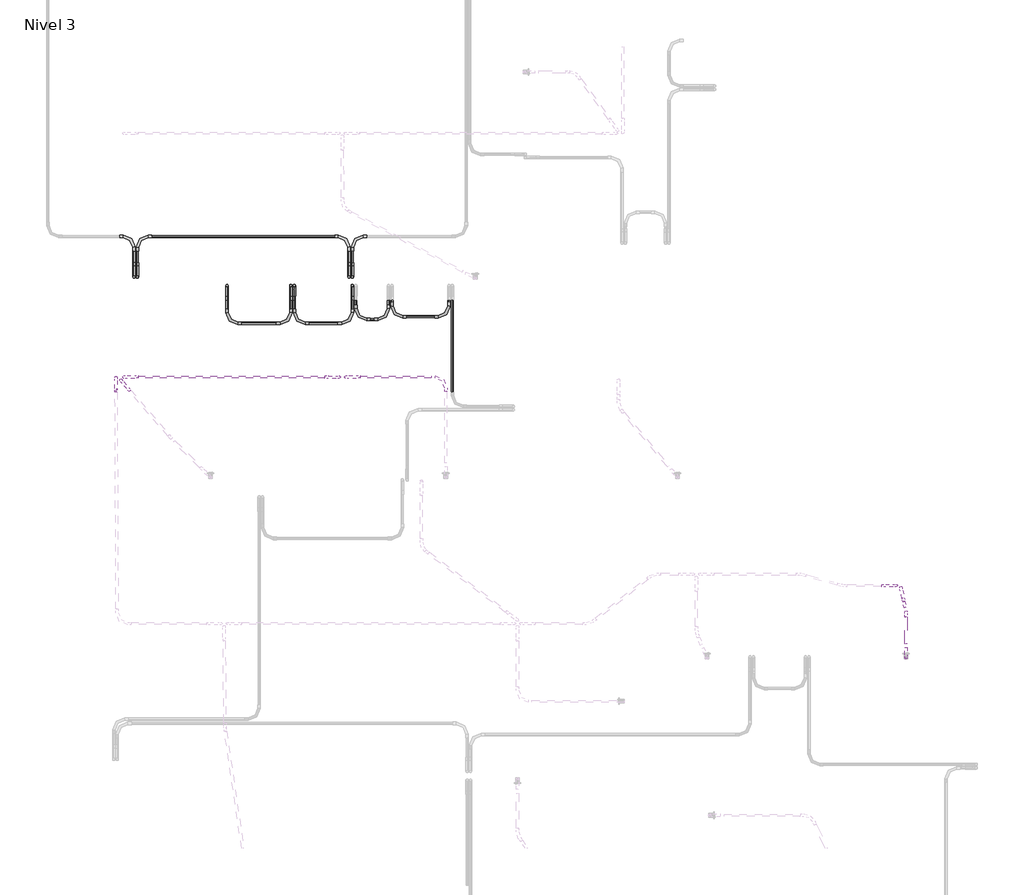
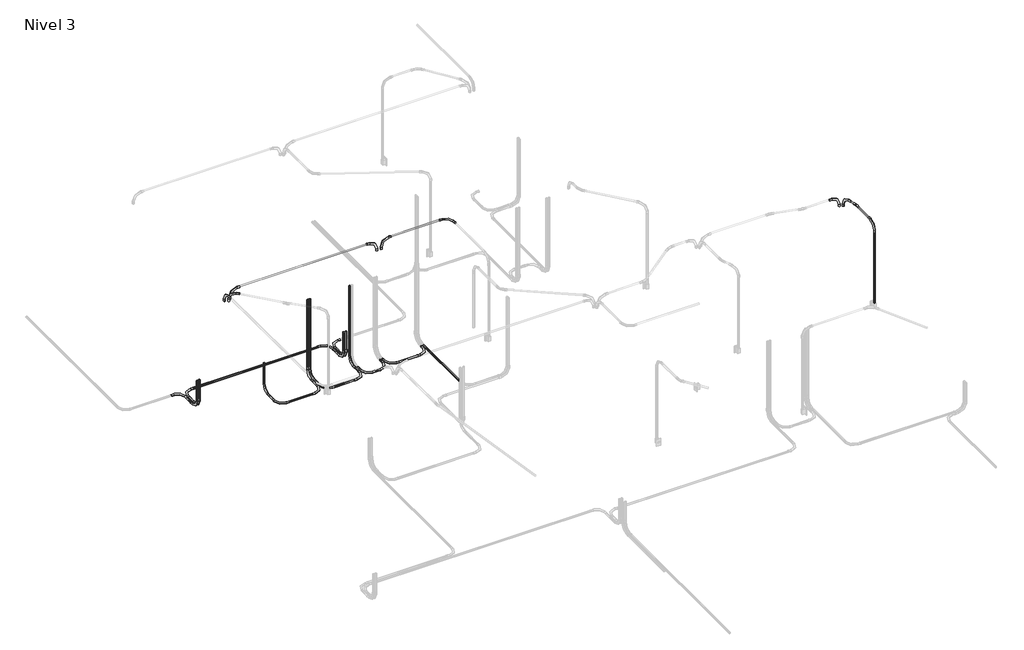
# One storey, part 5 of 9: 31 cable carrier segments, 30 cable carrier fittings.
"""IFC4 building model written with IfcOpenShell, lengths in millimetres."""

from ifc_helpers import new_model, si_unit, point, frame, frame_2d, origin, place, context, project, spatial, circle_curve, trimmed, segment, composite_curve, outline, extrude, transform, mapped, element, save
from components import m_codo_de_tubo_extremo_liso_pvc_9da73e12, m_codo_de_tubo_extremo_liso_pvc_102f0f41, m_codo_de_tubo_extremo_liso_pvc_2c15a8ce

model = new_model("IFC4")

# Units and contexts
model_context = context("Model", 3, world=origin())
ifc_project = project(units=[si_unit("LENGTHUNIT", "METRE", prefix="MILLI")], contexts=[model_context])

# Site, building, storey
site = spatial("IfcSite", under=ifc_project)
building = spatial("IfcBuilding", under=site)
storey = spatial("IfcBuildingStorey", under=building, Name="Nivel 3", Elevation=5450.0)

# Cable carrier fittings
placement = place(None, origin())
m_codo_de_tubo_extremo_liso_pvc_shape = m_codo_de_tubo_extremo_liso_pvc_9da73e12(model_context)
element("IfcCableCarrierFitting", 1, ObjectType="M_Codo de tubo - Extremo liso - PVC : CODO POTENCIA", at=placement, inside=storey, context=model_context, shape_type="MappedRepresentation", body=[
    mapped(m_codo_de_tubo_extremo_liso_pvc_shape, transform((194.4474418, 9095.3628882, 5380.0), x_axis=(0.0, 0.0, -1.0), y_axis=(0.0, 1.0, 0.0), z_axis=(1.0, 0.0, 0.0))),
])
element("IfcCableCarrierFitting", 2, ObjectType="M_Codo de tubo - Extremo liso - PVC : CODO POTENCIA", at=placement, inside=storey, context=model_context, shape_type="MappedRepresentation", body=[
    mapped(m_codo_de_tubo_extremo_liso_pvc_shape, transform((2471.9287441, 9095.3628882, 5380.0), x_axis=(0.0, 0.0, -1.0), y_axis=(0.0, 1.0, 0.0), z_axis=(1.0, 0.0, 0.0))),
])
element("IfcCableCarrierFitting", 3, ObjectType="M_Codo de tubo - Extremo liso - PVC : CODO POTENCIA", at=placement, inside=storey, context=model_context, shape_type="MappedRepresentation", body=[
    mapped(m_codo_de_tubo_extremo_liso_pvc_shape, transform((2507.9923837, 9523.463856, 5380.0), x_axis=(-1.0, 0.0, 0.0), y_axis=(0.0, -1.0, 0.0), z_axis=(0.0, 0.0, 1.0))),
])
element("IfcCableCarrierFitting", 4, ObjectType="M_Codo de tubo - Extremo liso - PVC : CODO POTENCIA", at=placement, inside=storey, context=model_context, shape_type="MappedRepresentation", body=[
    mapped(m_codo_de_tubo_extremo_liso_pvc_shape, transform((2507.9923837, 9095.3628882, 5380.0), x_axis=(0.0, 0.0, -1.0), y_axis=(0.0, 1.0, 0.0), z_axis=(1.0, 0.0, 0.0))),
])
element("IfcCableCarrierFitting", 5, ObjectType="M_Codo de tubo - Extremo liso - PVC : CODO POTENCIA", at=placement, inside=storey, context=model_context, shape_type="MappedRepresentation", body=[
    mapped(m_codo_de_tubo_extremo_liso_pvc_shape, transform((2471.9287441, 9523.463856, 5380.0), x_axis=(0.0, 1.0, 0.0), y_axis=(-1.0, 0.0, 0.0), z_axis=(0.0, 0.0, 1.0))),
])
element("IfcCableCarrierFitting", 6, ObjectType="M_Codo de tubo - Extremo liso - PVC : CODO POTENCIA", at=placement, inside=storey, context=model_context, shape_type="MappedRepresentation", body=[
    mapped(m_codo_de_tubo_extremo_liso_pvc_shape, transform((230.5110814, 9523.463856, 5380.0), x_axis=(-1.0, 0.0, 0.0), y_axis=(0.0, -1.0, 0.0), z_axis=(0.0, 0.0, 1.0))),
])
element("IfcCableCarrierFitting", 7, ObjectType="M_Codo de tubo - Extremo liso - PVC : CODO POTENCIA", at=placement, inside=storey, context=model_context, shape_type="MappedRepresentation", body=[
    mapped(m_codo_de_tubo_extremo_liso_pvc_shape, transform((230.5110814, 9095.3628882, 5380.0), x_axis=(0.0, 0.0, -1.0), y_axis=(0.0, 1.0, 0.0), z_axis=(1.0, 0.0, 0.0))),
])
element("IfcCableCarrierFitting", 8, ObjectType="M_Codo de tubo - Extremo liso - PVC : CODO POTENCIA", at=placement, inside=storey, context=model_context, shape_type="MappedRepresentation", body=[
    mapped(m_codo_de_tubo_extremo_liso_pvc_shape, transform((194.4474418, 9523.463856, 5380.0), x_axis=(0.0, 1.0, 0.0), y_axis=(-1.0, 0.0, 0.0), z_axis=(0.0, 0.0, 1.0))),
])
element("IfcCableCarrierFitting", 9, ObjectType="M_Codo de tubo - Extremo liso - PVC : CODO POTENCIA", at=placement, inside=storey, context=model_context, shape_type="MappedRepresentation", body=[
    mapped(m_codo_de_tubo_extremo_liso_pvc_shape, transform((1181.3168754, 9004.6371118, 5380.0), x_axis=(0.0, 0.0, -1.0), y_axis=(0.0, -1.0, 0.0), z_axis=(-1.0, 0.0, 0.0))),
])
element("IfcCableCarrierFitting", 10, ObjectType="M_Codo de tubo - Extremo liso - PVC : CODO POTENCIA", at=placement, inside=storey, context=model_context, shape_type="MappedRepresentation", body=[
    mapped(m_codo_de_tubo_extremo_liso_pvc_shape, transform((1856.6567743, 9004.6371118, 5380.0), x_axis=(0.0, 0.0, -1.0), y_axis=(0.0, -1.0, 0.0), z_axis=(-1.0, 0.0, 0.0))),
])
element("IfcCableCarrierFitting", 11, ObjectType="M_Codo de tubo - Extremo liso - PVC : CODO POTENCIA", at=placement, inside=storey, context=model_context, shape_type="MappedRepresentation", body=[
    mapped(m_codo_de_tubo_extremo_liso_pvc_shape, transform((1892.720414, 9004.6371118, 5380.0), x_axis=(0.0, 0.0, -1.0), y_axis=(0.0, -1.0, 0.0), z_axis=(-1.0, 0.0, 0.0))),
])
element("IfcCableCarrierFitting", 12, ObjectType="M_Codo de tubo - Extremo liso - PVC : CODO POTENCIA", at=placement, inside=storey, context=model_context, shape_type="MappedRepresentation", body=[
    mapped(m_codo_de_tubo_extremo_liso_pvc_shape, transform((2507.6648665, 9004.6371118, 5380.0), x_axis=(0.0, 0.0, -1.0), y_axis=(0.0, -1.0, 0.0), z_axis=(-1.0, 0.0, 0.0))),
])
element("IfcCableCarrierFitting", 13, ObjectType="M_Codo de tubo - Extremo liso - PVC : CODO POTENCIA", at=placement, inside=storey, context=model_context, shape_type="MappedRepresentation", body=[
    mapped(m_codo_de_tubo_extremo_liso_pvc_shape, transform((1856.6567743, 8604.6371118, 5380.0), x_axis=(1.0, 0.0, 0.0), y_axis=(0.0, 1.0, 0.0), z_axis=(0.0, 0.0, 1.0))),
])
element("IfcCableCarrierFitting", 14, ObjectType="M_Codo de tubo - Extremo liso - PVC : CODO POTENCIA", at=placement, inside=storey, context=model_context, shape_type="MappedRepresentation", body=[
    mapped(m_codo_de_tubo_extremo_liso_pvc_shape, transform((1181.3168754, 8604.6371118, 5380.0), x_axis=(0.0, -1.0, 0.0), y_axis=(1.0, 0.0, 0.0), z_axis=(0.0, 0.0, 1.0))),
])
element("IfcCableCarrierFitting", 15, ObjectType="M_Codo de tubo - Extremo liso - PVC : CODO POTENCIA", at=placement, inside=storey, context=model_context, shape_type="MappedRepresentation", body=[
    mapped(m_codo_de_tubo_extremo_liso_pvc_shape, transform((2890.8449158, 8644.6371118, 5380.0), x_axis=(1.0, 0.0, 0.0), y_axis=(0.0, 1.0, 0.0), z_axis=(0.0, 0.0, 1.0))),
])
element("IfcCableCarrierFitting", 16, ObjectType="M_Codo de tubo - Extremo liso - PVC : CODO POTENCIA", at=placement, inside=storey, context=model_context, shape_type="MappedRepresentation", body=[
    mapped(m_codo_de_tubo_extremo_liso_pvc_shape, transform((2543.7285061, 8644.6371118, 5380.0), x_axis=(0.0, -1.0, 0.0), y_axis=(1.0, 0.0, 0.0), z_axis=(0.0, 0.0, 1.0))),
])
element("IfcCableCarrierFitting", 17, ObjectType="M_Codo de tubo - Extremo liso - PVC : CODO POTENCIA", at=placement, inside=storey, context=model_context, shape_type="MappedRepresentation", body=[
    mapped(m_codo_de_tubo_extremo_liso_pvc_shape, transform((2507.6648665, 8604.6371118, 5380.0), x_axis=(1.0, 0.0, 0.0), y_axis=(0.0, 1.0, 0.0), z_axis=(0.0, 0.0, 1.0))),
])
element("IfcCableCarrierFitting", 18, ObjectType="M_Codo de tubo - Extremo liso - PVC : CODO POTENCIA", at=placement, inside=storey, context=model_context, shape_type="MappedRepresentation", body=[
    mapped(m_codo_de_tubo_extremo_liso_pvc_shape, transform((1892.720414, 8604.6371118, 5380.0), x_axis=(0.0, -1.0, 0.0), y_axis=(1.0, 0.0, 0.0), z_axis=(0.0, 0.0, 1.0))),
])
element("IfcCableCarrierFitting", 19, ObjectType="M_Codo de tubo - Extremo liso - PVC : CODO POTENCIA", at=placement, inside=storey, context=model_context, shape_type="MappedRepresentation", body=[
    mapped(m_codo_de_tubo_extremo_liso_pvc_shape, transform((2926.9085554, 8674.6371118, 5380.0), x_axis=(0.0, -1.0, 0.0), y_axis=(1.0, 0.0, 0.0), z_axis=(0.0, 0.0, 1.0))),
])
element("IfcCableCarrierFitting", 20, ObjectType="M_Codo de tubo - Extremo liso - PVC : CODO POTENCIA", at=placement, inside=storey, context=model_context, shape_type="MappedRepresentation", body=[
    mapped(m_codo_de_tubo_extremo_liso_pvc_shape, transform((3530.4120251, 8674.6371118, 5380.0), x_axis=(1.0, 0.0, 0.0), y_axis=(0.0, 1.0, 0.0), z_axis=(0.0, 0.0, 1.0))),
])
element("IfcCableCarrierFitting", 21, ObjectType="M_Codo de tubo - Extremo liso - PVC : CODO ILUMINACION", at=placement, inside=storey, context=model_context, shape_type="MappedRepresentation", body=[
    mapped(m_codo_de_tubo_extremo_liso_pvc_shape, transform((88.3958853, 8034.5901689, 8000.0), x_axis=(-1.0, 0.0, 0.0), y_axis=(0.0, 0.0, -1.0), z_axis=(0.0, -1.0, 0.0))),
])
element("IfcCableCarrierFitting", 22, ObjectType="M_Codo de tubo - Extremo liso - PVC : CODO ILUMINACION", at=placement, inside=storey, context=model_context, shape_type="MappedRepresentation", body=[
    mapped(m_codo_de_tubo_extremo_liso_pvc_shape, transform((2437.1421514, 8034.5901689, 8000.0), x_axis=(-1.0, 0.0, 0.0), y_axis=(0.0, 0.0, -1.0), z_axis=(0.0, -1.0, 0.0))),
])
element("IfcCableCarrierFitting", 23, ObjectType="M_Codo de tubo - Extremo liso - PVC : CODO ILUMINACION", at=placement, inside=storey, context=model_context, shape_type="MappedRepresentation", body=[
    mapped(m_codo_de_tubo_extremo_liso_pvc_shape, transform((3497.5007971, 8034.5901689, 8000.0), x_axis=(0.0, 1.0, 0.0), y_axis=(-1.0, 0.0, 0.0), z_axis=(0.0, 0.0, 1.0))),
])
element("IfcCableCarrierFitting", 24, ObjectType="M_Codo de tubo - Extremo liso - PVC : CODO ILUMINACION", at=placement, inside=storey, context=model_context, shape_type="MappedRepresentation", body=[
    mapped(m_codo_de_tubo_extremo_liso_pvc_shape, transform((8316.6972499, 5804.4592835, 8000.0), x_axis=(-0.2079116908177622, 0.978147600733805, 0.0), y_axis=(0.0, 0.0, -1.0), z_axis=(-0.978147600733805, -0.2079116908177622, 0.0))),
])
element("IfcCableCarrierFitting", 25, ObjectType="M_Codo de tubo - Extremo liso - PVC : CODO ILUMINACION", at=placement, inside=storey, context=model_context, shape_type="MappedRepresentation", body=[
    mapped(m_codo_de_tubo_extremo_liso_pvc_shape, transform((8372.2907497, 5056.8611243, 8000.0), x_axis=(0.0, 0.0, 1.0), y_axis=(0.0, 1.0, 0.0), z_axis=(-1.0, 0.0, 0.0))),
])
m_codo_de_tubo_extremo_liso_pvc_2_shape = m_codo_de_tubo_extremo_liso_pvc_102f0f41(model_context)
element("IfcCableCarrierFitting", 26, ObjectType="M_Codo de tubo - Extremo liso - PVC : CODO ILUMINACION", at=placement, inside=storey, context=model_context, shape_type="MappedRepresentation", body=[
    mapped(m_codo_de_tubo_extremo_liso_pvc_2_shape, transform((2369.1118904, 8034.5901689, 8000.0), x_axis=(1.0, 0.0, 0.0), y_axis=(0.0, 0.0, 1.0), z_axis=(0.0, -1.0, 0.0))),
])
element("IfcCableCarrierFitting", 27, ObjectType="M_Codo de tubo - Extremo liso - PVC : CODO ILUMINACION", at=placement, inside=storey, context=model_context, shape_type="MappedRepresentation", body=[
    mapped(m_codo_de_tubo_extremo_liso_pvc_2_shape, transform((8269.3235905, 5825.8353075, 8000.0), x_axis=(1.0, 0.0, 0.0), y_axis=(0.0, 0.0, 1.0), z_axis=(0.0, -1.0, 0.0))),
])
element("IfcCableCarrierFitting", 28, ObjectType="M_Codo de tubo - Extremo liso - PVC : CODO ILUMINACION", at=placement, inside=storey, context=model_context, shape_type="MappedRepresentation", body=[
    mapped(m_codo_de_tubo_extremo_liso_pvc_2_shape, transform((54.7290552, 8003.7690108, 8000.0), x_axis=(-0.6458247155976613, 0.7634857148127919, 0.0), y_axis=(0.0, 0.0, 1.0), z_axis=(0.7634857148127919, 0.6458247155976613, 0.0))),
])
element("IfcCableCarrierFitting", 29, ObjectType="M_Codo de tubo - Extremo liso - PVC : CODO ILUMINACION", at=placement, inside=storey, context=model_context, shape_type="MappedRepresentation", body=[
    mapped(m_codo_de_tubo_extremo_liso_pvc_2_shape, transform((4.5289809, 8029.5330199, 8000.0), x_axis=(-0.004558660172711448, 0.9999896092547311, 0.0), y_axis=(0.0, 0.0, 1.0000000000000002), z_axis=(0.9999896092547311, 0.004558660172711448, 0.0))),
])
m_codo_de_tubo_extremo_liso_pvc_3_shape = m_codo_de_tubo_extremo_liso_pvc_2c15a8ce(model_context)
element("IfcCableCarrierFitting", 30, ObjectType="M_Codo de tubo - Extremo liso - PVC : CODO ILUMINACION", at=placement, inside=storey, context=model_context, shape_type="MappedRepresentation", body=[
    mapped(m_codo_de_tubo_extremo_liso_pvc_3_shape, transform((8372.2907497, 5542.9124303, 8000.0), x_axis=(0.0, 1.0, 0.0), y_axis=(-1.0, 0.0, 0.0), z_axis=(0.0, 0.0, 1.0))),
])

# Cable carrier segments
element("IfcCableCarrierSegment", 31, ObjectType="PVC-SEL, POTENCIA", at=placement, inside=storey, context=model_context, shape_type="SweptSolid", body=[
    extrude(outline(composite_curve([segment(trimmed(circle_curve(frame_2d((5380.0, 230.5110814)), 11.71), [point((5380.0, 218.8010814))], [point((5368.29, 230.5110814))], False, "CARTESIAN"), True, "CONTINUOUS"), segment(trimmed(circle_curve(frame_2d((5380.0, 230.5110814)), 11.71), [point((5368.29, 230.5110814))], [point((5380.0, 242.2210814))], False, "CARTESIAN"), True, "CONTINUOUS"), segment(trimmed(circle_curve(frame_2d((5380.0, 230.5110814)), 11.71), [point((5380.0, 242.2210814))], [point((5391.71, 230.5110814))], False, "CARTESIAN"), True, "CONTINUOUS"), segment(trimmed(circle_curve(frame_2d((5380.0, 230.5110814)), 11.71), [point((5391.71, 230.5110814))], [point((5380.0, 218.8010814))], False, "CARTESIAN"), True, "CONTINUOUS")], self_intersect=False)), frame((0.0, 9247.7628882, 0.0), z_axis=(0.0, 1.0, 0.0), x_axis=(0.0, 0.0, 1.0)), (0.0, 0.0, 1.0), 123.3009678),
])
element("IfcCableCarrierSegment", 32, ObjectType="PVC-SEL, POTENCIA", at=placement, inside=storey, context=model_context, shape_type="SweptSolid", body=[
    extrude(outline(composite_curve([segment(trimmed(circle_curve(frame_2d((230.5110814, 9095.3628882)), 11.71), [point((242.2210814, 9095.3628882))], [point((230.5110814, 9083.6528882))], False, "CARTESIAN"), True, "CONTINUOUS"), segment(trimmed(circle_curve(frame_2d((230.5110814, 9095.3628882)), 11.71), [point((230.5110814, 9083.6528882))], [point((218.8010814, 9095.3628882))], False, "CARTESIAN"), True, "CONTINUOUS"), segment(trimmed(circle_curve(frame_2d((230.5110814, 9095.3628882)), 11.71), [point((218.8010814, 9095.3628882))], [point((230.5110814, 9107.0728882))], False, "CARTESIAN"), True, "CONTINUOUS"), segment(trimmed(circle_curve(frame_2d((230.5110814, 9095.3628882)), 11.71), [point((230.5110814, 9107.0728882))], [point((242.2210814, 9095.3628882))], False, "CARTESIAN"), True, "CONTINUOUS")], self_intersect=False)), frame((0.0, 0.0, 5532.4), z_axis=(0.0, 0.0, 1.0), x_axis=(1.0, 0.0, 0.0)), (0.0, 0.0, 1.0), 297.3020537),
])
element("IfcCableCarrierSegment", 33, ObjectType="PVC-SEL, POTENCIA", at=placement, inside=storey, context=model_context, shape_type="SweptSolid", body=[
    extrude(outline(composite_curve([segment(trimmed(circle_curve(frame_2d((5380.0, 194.4474418)), 11.71), [point((5380.0, 206.1574418))], [point((5391.71, 194.4474418))], False, "CARTESIAN"), True, "CONTINUOUS"), segment(trimmed(circle_curve(frame_2d((5380.0, 194.4474418)), 11.71), [point((5391.71, 194.4474418))], [point((5380.0, 182.7374418))], False, "CARTESIAN"), True, "CONTINUOUS"), segment(trimmed(circle_curve(frame_2d((5380.0, 194.4474418)), 11.71), [point((5380.0, 182.7374418))], [point((5368.29, 194.4474418))], False, "CARTESIAN"), True, "CONTINUOUS"), segment(trimmed(circle_curve(frame_2d((5380.0, 194.4474418)), 11.71), [point((5368.29, 194.4474418))], [point((5380.0, 206.1574418))], False, "CARTESIAN"), True, "CONTINUOUS")], self_intersect=False)), frame((0.0, 9247.7628882, 0.0), z_axis=(0.0, 1.0, 0.0), x_axis=(0.0, 0.0, 1.0)), (0.0, 0.0, 1.0), 123.3009678),
])
element("IfcCableCarrierSegment", 34, ObjectType="PVC-SEL, POTENCIA", at=placement, inside=storey, context=model_context, shape_type="SweptSolid", body=[
    extrude(outline(composite_curve([segment(trimmed(circle_curve(frame_2d((194.4474418, 9095.3628882)), 11.71), [point((206.1574418, 9095.3628882))], [point((194.4474418, 9083.6528882))], False, "CARTESIAN"), True, "CONTINUOUS"), segment(trimmed(circle_curve(frame_2d((194.4474418, 9095.3628882)), 11.71), [point((194.4474418, 9083.6528882))], [point((182.7374418, 9095.3628882))], False, "CARTESIAN"), True, "CONTINUOUS"), segment(trimmed(circle_curve(frame_2d((194.4474418, 9095.3628882)), 11.71), [point((182.7374418, 9095.3628882))], [point((194.4474418, 9107.0728882))], False, "CARTESIAN"), True, "CONTINUOUS"), segment(trimmed(circle_curve(frame_2d((194.4474418, 9095.3628882)), 11.71), [point((194.4474418, 9107.0728882))], [point((206.1574418, 9095.3628882))], False, "CARTESIAN"), True, "CONTINUOUS")], self_intersect=False)), frame((0.0, 0.0, 5532.4), z_axis=(0.0, 0.0, 1.0), x_axis=(1.0, 0.0, 0.0)), (0.0, 0.0, 1.0), 297.3020537),
])
element("IfcCableCarrierSegment", 35, ObjectType="PVC-SEL, POTENCIA", at=placement, inside=storey, context=model_context, shape_type="SweptSolid", body=[
    extrude(outline(composite_curve([segment(trimmed(circle_curve(frame_2d((5380.0, 2507.9923837)), 11.71), [point((5380.0, 2496.2823837))], [point((5368.29, 2507.9923837))], False, "CARTESIAN"), True, "CONTINUOUS"), segment(trimmed(circle_curve(frame_2d((5380.0, 2507.9923837)), 11.71), [point((5368.29, 2507.9923837))], [point((5380.0, 2519.7023837))], False, "CARTESIAN"), True, "CONTINUOUS"), segment(trimmed(circle_curve(frame_2d((5380.0, 2507.9923837)), 11.71), [point((5380.0, 2519.7023837))], [point((5391.71, 2507.9923837))], False, "CARTESIAN"), True, "CONTINUOUS"), segment(trimmed(circle_curve(frame_2d((5380.0, 2507.9923837)), 11.71), [point((5391.71, 2507.9923837))], [point((5380.0, 2496.2823837))], False, "CARTESIAN"), True, "CONTINUOUS")], self_intersect=False)), frame((0.0, 9247.7628882, 0.0), z_axis=(0.0, 1.0, 0.0), x_axis=(0.0, 0.0, 1.0)), (0.0, 0.0, 1.0), 123.3009678),
])
element("IfcCableCarrierSegment", 36, ObjectType="PVC-SEL, POTENCIA", at=placement, inside=storey, context=model_context, shape_type="SweptSolid", body=[
    extrude(outline(composite_curve([segment(trimmed(circle_curve(frame_2d((2507.9923837, 9095.3628882)), 11.71), [point((2519.7023837, 9095.3628882))], [point((2507.9923837, 9083.6528882))], False, "CARTESIAN"), True, "CONTINUOUS"), segment(trimmed(circle_curve(frame_2d((2507.9923837, 9095.3628882)), 11.71), [point((2507.9923837, 9083.6528882))], [point((2496.2823837, 9095.3628882))], False, "CARTESIAN"), True, "CONTINUOUS"), segment(trimmed(circle_curve(frame_2d((2507.9923837, 9095.3628882)), 11.71), [point((2496.2823837, 9095.3628882))], [point((2507.9923837, 9107.0728882))], False, "CARTESIAN"), True, "CONTINUOUS"), segment(trimmed(circle_curve(frame_2d((2507.9923837, 9095.3628882)), 11.71), [point((2507.9923837, 9107.0728882))], [point((2519.7023837, 9095.3628882))], False, "CARTESIAN"), True, "CONTINUOUS")], self_intersect=False)), frame((0.0, 0.0, 5532.4), z_axis=(0.0, 0.0, 1.0), x_axis=(1.0, 0.0, 0.0)), (0.0, 0.0, 1.0), 297.3020537),
])
element("IfcCableCarrierSegment", 37, ObjectType="PVC-SEL, POTENCIA", at=placement, inside=storey, context=model_context, shape_type="SweptSolid", body=[
    extrude(outline(composite_curve([segment(trimmed(circle_curve(frame_2d((5380.0, 2471.9287441)), 11.71), [point((5380.0, 2483.6387441))], [point((5391.71, 2471.9287441))], False, "CARTESIAN"), True, "CONTINUOUS"), segment(trimmed(circle_curve(frame_2d((5380.0, 2471.9287441)), 11.71), [point((5391.71, 2471.9287441))], [point((5380.0, 2460.2187441))], False, "CARTESIAN"), True, "CONTINUOUS"), segment(trimmed(circle_curve(frame_2d((5380.0, 2471.9287441)), 11.71), [point((5380.0, 2460.2187441))], [point((5368.29, 2471.9287441))], False, "CARTESIAN"), True, "CONTINUOUS"), segment(trimmed(circle_curve(frame_2d((5380.0, 2471.9287441)), 11.71), [point((5368.29, 2471.9287441))], [point((5380.0, 2483.6387441))], False, "CARTESIAN"), True, "CONTINUOUS")], self_intersect=False)), frame((0.0, 9247.7628882, 0.0), z_axis=(0.0, 1.0, 0.0), x_axis=(0.0, 0.0, 1.0)), (0.0, 0.0, 1.0), 123.3009678),
])
element("IfcCableCarrierSegment", 38, ObjectType="PVC-SEL, POTENCIA", at=placement, inside=storey, context=model_context, shape_type="SweptSolid", body=[
    extrude(outline(composite_curve([segment(trimmed(circle_curve(frame_2d((2471.9287441, 9095.3628882)), 11.71), [point((2483.6387441, 9095.3628882))], [point((2471.9287441, 9083.6528882))], False, "CARTESIAN"), True, "CONTINUOUS"), segment(trimmed(circle_curve(frame_2d((2471.9287441, 9095.3628882)), 11.71), [point((2471.9287441, 9083.6528882))], [point((2460.2187441, 9095.3628882))], False, "CARTESIAN"), True, "CONTINUOUS"), segment(trimmed(circle_curve(frame_2d((2471.9287441, 9095.3628882)), 11.71), [point((2460.2187441, 9095.3628882))], [point((2471.9287441, 9107.0728882))], False, "CARTESIAN"), True, "CONTINUOUS"), segment(trimmed(circle_curve(frame_2d((2471.9287441, 9095.3628882)), 11.71), [point((2471.9287441, 9107.0728882))], [point((2483.6387441, 9095.3628882))], False, "CARTESIAN"), True, "CONTINUOUS")], self_intersect=False)), frame((0.0, 0.0, 5532.4), z_axis=(0.0, 0.0, 1.0), x_axis=(1.0, 0.0, 0.0)), (0.0, 0.0, 1.0), 297.3020537),
])
element("IfcCableCarrierSegment", 39, ObjectType="PVC-SEL, POTENCIA", at=placement, inside=storey, context=model_context, shape_type="SweptSolid", body=[
    extrude(outline(composite_curve([segment(trimmed(circle_curve(frame_2d((9523.463856, 5380.0)), 11.71), [point((9535.173856, 5380.0))], [point((9523.463856, 5368.29))], False, "CARTESIAN"), True, "CONTINUOUS"), segment(trimmed(circle_curve(frame_2d((9523.463856, 5380.0)), 11.71), [point((9523.463856, 5368.29))], [point((9511.753856, 5380.0))], False, "CARTESIAN"), True, "CONTINUOUS"), segment(trimmed(circle_curve(frame_2d((9523.463856, 5380.0)), 11.71), [point((9511.753856, 5380.0))], [point((9523.463856, 5391.71))], False, "CARTESIAN"), True, "CONTINUOUS"), segment(trimmed(circle_curve(frame_2d((9523.463856, 5380.0)), 11.71), [point((9523.463856, 5391.71))], [point((9535.173856, 5380.0))], False, "CARTESIAN"), True, "CONTINUOUS")], self_intersect=False)), frame((382.9110814, 0.0, 0.0), z_axis=(1.0, 0.0, 0.0), x_axis=(0.0, 1.0, 0.0)), (0.0, 0.0, 1.0), 1936.6176627),
])
element("IfcCableCarrierSegment", 40, ObjectType="PVC-SEL, POTENCIA", at=placement, inside=storey, context=model_context, shape_type="SweptSolid", body=[
    extrude(outline(composite_curve([segment(trimmed(circle_curve(frame_2d((5380.0, 1181.3168754)), 11.71), [point((5380.0, 1169.6068754))], [point((5368.29, 1181.3168754))], False, "CARTESIAN"), True, "CONTINUOUS"), segment(trimmed(circle_curve(frame_2d((5380.0, 1181.3168754)), 11.71), [point((5368.29, 1181.3168754))], [point((5380.0, 1193.0268754))], False, "CARTESIAN"), True, "CONTINUOUS"), segment(trimmed(circle_curve(frame_2d((5380.0, 1181.3168754)), 11.71), [point((5380.0, 1193.0268754))], [point((5391.71, 1181.3168754))], False, "CARTESIAN"), True, "CONTINUOUS"), segment(trimmed(circle_curve(frame_2d((5380.0, 1181.3168754)), 11.71), [point((5391.71, 1181.3168754))], [point((5380.0, 1169.6068754))], False, "CARTESIAN"), True, "CONTINUOUS")], self_intersect=False)), frame((0.0, 8757.0371118, 0.0), z_axis=(0.0, 1.0, 0.0), x_axis=(0.0, 0.0, 1.0)), (0.0, 0.0, 1.0), 95.2),
])
element("IfcCableCarrierSegment", 41, ObjectType="PVC-SEL, POTENCIA", at=placement, inside=storey, context=model_context, shape_type="SweptSolid", body=[
    extrude(outline(composite_curve([segment(trimmed(circle_curve(frame_2d((1181.3168754, 9004.6371118)), 11.71), [point((1193.0268754, 9004.6371118))], [point((1181.3168754, 8992.9271118))], False, "CARTESIAN"), True, "CONTINUOUS"), segment(trimmed(circle_curve(frame_2d((1181.3168754, 9004.6371118)), 11.71), [point((1181.3168754, 8992.9271118))], [point((1169.6068754, 9004.6371118))], False, "CARTESIAN"), True, "CONTINUOUS"), segment(trimmed(circle_curve(frame_2d((1181.3168754, 9004.6371118)), 11.71), [point((1169.6068754, 9004.6371118))], [point((1181.3168754, 9016.3471118))], False, "CARTESIAN"), True, "CONTINUOUS"), segment(trimmed(circle_curve(frame_2d((1181.3168754, 9004.6371118)), 11.71), [point((1181.3168754, 9016.3471118))], [point((1193.0268754, 9004.6371118))], False, "CARTESIAN"), True, "CONTINUOUS")], self_intersect=False)), frame((0.0, 0.0, 5532.4), z_axis=(0.0, 0.0, 1.0), x_axis=(1.0, 0.0, 0.0)), (0.0, 0.0, 1.0), 297.3020537),
])
element("IfcCableCarrierSegment", 42, ObjectType="PVC-SEL, POTENCIA", at=placement, inside=storey, context=model_context, shape_type="SweptSolid", body=[
    extrude(outline(composite_curve([segment(trimmed(circle_curve(frame_2d((8604.6371118, 5380.0)), 11.71), [point((8616.3471118, 5380.0))], [point((8604.6371118, 5368.29))], False, "CARTESIAN"), True, "CONTINUOUS"), segment(trimmed(circle_curve(frame_2d((8604.6371118, 5380.0)), 11.71), [point((8604.6371118, 5368.29))], [point((8592.9271118, 5380.0))], False, "CARTESIAN"), True, "CONTINUOUS"), segment(trimmed(circle_curve(frame_2d((8604.6371118, 5380.0)), 11.71), [point((8592.9271118, 5380.0))], [point((8604.6371118, 5391.71))], False, "CARTESIAN"), True, "CONTINUOUS"), segment(trimmed(circle_curve(frame_2d((8604.6371118, 5380.0)), 11.71), [point((8604.6371118, 5391.71))], [point((8616.3471118, 5380.0))], False, "CARTESIAN"), True, "CONTINUOUS")], self_intersect=False)), frame((1333.7168754, 0.0, 0.0), z_axis=(1.0, 0.0, 0.0), x_axis=(0.0, 1.0, 0.0)), (0.0, 0.0, 1.0), 370.5398989),
])
element("IfcCableCarrierSegment", 43, ObjectType="PVC-SEL, POTENCIA", at=placement, inside=storey, context=model_context, shape_type="SweptSolid", body=[
    extrude(outline(composite_curve([segment(trimmed(circle_curve(frame_2d((5380.0, 1856.6567743)), 11.71), [point((5380.0, 1844.9467743))], [point((5368.29, 1856.6567743))], False, "CARTESIAN"), True, "CONTINUOUS"), segment(trimmed(circle_curve(frame_2d((5380.0, 1856.6567743)), 11.71), [point((5368.29, 1856.6567743))], [point((5380.0, 1868.3667743))], False, "CARTESIAN"), True, "CONTINUOUS"), segment(trimmed(circle_curve(frame_2d((5380.0, 1856.6567743)), 11.71), [point((5380.0, 1868.3667743))], [point((5391.71, 1856.6567743))], False, "CARTESIAN"), True, "CONTINUOUS"), segment(trimmed(circle_curve(frame_2d((5380.0, 1856.6567743)), 11.71), [point((5391.71, 1856.6567743))], [point((5380.0, 1844.9467743))], False, "CARTESIAN"), True, "CONTINUOUS")], self_intersect=False)), frame((0.0, 8757.0371118, 0.0), z_axis=(0.0, 1.0, 0.0), x_axis=(0.0, 0.0, 1.0)), (0.0, 0.0, 1.0), 95.2),
])
element("IfcCableCarrierSegment", 44, ObjectType="PVC-SEL, POTENCIA", at=placement, inside=storey, context=model_context, shape_type="SweptSolid", body=[
    extrude(outline(composite_curve([segment(trimmed(circle_curve(frame_2d((1856.6567743, 9004.6371118)), 11.71), [point((1868.3667743, 9004.6371118))], [point((1856.6567743, 8992.9271118))], False, "CARTESIAN"), True, "CONTINUOUS"), segment(trimmed(circle_curve(frame_2d((1856.6567743, 9004.6371118)), 11.71), [point((1856.6567743, 8992.9271118))], [point((1844.9467743, 9004.6371118))], False, "CARTESIAN"), True, "CONTINUOUS"), segment(trimmed(circle_curve(frame_2d((1856.6567743, 9004.6371118)), 11.71), [point((1844.9467743, 9004.6371118))], [point((1856.6567743, 9016.3471118))], False, "CARTESIAN"), True, "CONTINUOUS"), segment(trimmed(circle_curve(frame_2d((1856.6567743, 9004.6371118)), 11.71), [point((1856.6567743, 9016.3471118))], [point((1868.3667743, 9004.6371118))], False, "CARTESIAN"), True, "CONTINUOUS")], self_intersect=False)), frame((0.0, 0.0, 5532.4), z_axis=(0.0, 0.0, 1.0), x_axis=(1.0, 0.0, 0.0)), (0.0, 0.0, 1.0), 1097.3020537),
])
element("IfcCableCarrierSegment", 45, ObjectType="PVC-SEL, POTENCIA", at=placement, inside=storey, context=model_context, shape_type="SweptSolid", body=[
    extrude(outline(composite_curve([segment(trimmed(circle_curve(frame_2d((5380.0, 1892.720414)), 11.71), [point((5380.0, 1881.010414))], [point((5368.29, 1892.720414))], False, "CARTESIAN"), True, "CONTINUOUS"), segment(trimmed(circle_curve(frame_2d((5380.0, 1892.720414)), 11.71), [point((5368.29, 1892.720414))], [point((5380.0, 1904.430414))], False, "CARTESIAN"), True, "CONTINUOUS"), segment(trimmed(circle_curve(frame_2d((5380.0, 1892.720414)), 11.71), [point((5380.0, 1904.430414))], [point((5391.71, 1892.720414))], False, "CARTESIAN"), True, "CONTINUOUS"), segment(trimmed(circle_curve(frame_2d((5380.0, 1892.720414)), 11.71), [point((5391.71, 1892.720414))], [point((5380.0, 1881.010414))], False, "CARTESIAN"), True, "CONTINUOUS")], self_intersect=False)), frame((0.0, 8757.0371118, 0.0), z_axis=(0.0, 1.0, 0.0), x_axis=(0.0, 0.0, 1.0)), (0.0, 0.0, 1.0), 95.2),
])
element("IfcCableCarrierSegment", 46, ObjectType="PVC-SEL, POTENCIA", at=placement, inside=storey, context=model_context, shape_type="SweptSolid", body=[
    extrude(outline(composite_curve([segment(trimmed(circle_curve(frame_2d((1892.720414, 9004.6371118)), 11.71), [point((1904.430414, 9004.6371118))], [point((1892.720414, 8992.9271118))], False, "CARTESIAN"), True, "CONTINUOUS"), segment(trimmed(circle_curve(frame_2d((1892.720414, 9004.6371118)), 11.71), [point((1892.720414, 8992.9271118))], [point((1881.010414, 9004.6371118))], False, "CARTESIAN"), True, "CONTINUOUS"), segment(trimmed(circle_curve(frame_2d((1892.720414, 9004.6371118)), 11.71), [point((1881.010414, 9004.6371118))], [point((1892.720414, 9016.3471118))], False, "CARTESIAN"), True, "CONTINUOUS"), segment(trimmed(circle_curve(frame_2d((1892.720414, 9004.6371118)), 11.71), [point((1892.720414, 9016.3471118))], [point((1904.430414, 9004.6371118))], False, "CARTESIAN"), True, "CONTINUOUS")], self_intersect=False)), frame((0.0, 0.0, 5532.4), z_axis=(0.0, 0.0, 1.0), x_axis=(1.0, 0.0, 0.0)), (0.0, 0.0, 1.0), 1097.3020537),
])
element("IfcCableCarrierSegment", 47, ObjectType="PVC-SEL, POTENCIA", at=placement, inside=storey, context=model_context, shape_type="SweptSolid", body=[
    extrude(outline(composite_curve([segment(trimmed(circle_curve(frame_2d((5380.0, 2507.6648665)), 11.71), [point((5380.0, 2495.9548665))], [point((5368.29, 2507.6648665))], False, "CARTESIAN"), True, "CONTINUOUS"), segment(trimmed(circle_curve(frame_2d((5380.0, 2507.6648665)), 11.71), [point((5368.29, 2507.6648665))], [point((5380.0, 2519.3748665))], False, "CARTESIAN"), True, "CONTINUOUS"), segment(trimmed(circle_curve(frame_2d((5380.0, 2507.6648665)), 11.71), [point((5380.0, 2519.3748665))], [point((5391.71, 2507.6648665))], False, "CARTESIAN"), True, "CONTINUOUS"), segment(trimmed(circle_curve(frame_2d((5380.0, 2507.6648665)), 11.71), [point((5391.71, 2507.6648665))], [point((5380.0, 2495.9548665))], False, "CARTESIAN"), True, "CONTINUOUS")], self_intersect=False)), frame((0.0, 8757.0371118, 0.0), z_axis=(0.0, 1.0, 0.0), x_axis=(0.0, 0.0, 1.0)), (0.0, 0.0, 1.0), 95.2),
])
element("IfcCableCarrierSegment", 48, ObjectType="PVC-SEL, POTENCIA", at=placement, inside=storey, context=model_context, shape_type="SweptSolid", body=[
    extrude(outline(composite_curve([segment(trimmed(circle_curve(frame_2d((2507.6648665, 9004.6371118)), 11.71), [point((2519.3748665, 9004.6371118))], [point((2507.6648665, 8992.9271118))], False, "CARTESIAN"), True, "CONTINUOUS"), segment(trimmed(circle_curve(frame_2d((2507.6648665, 9004.6371118)), 11.71), [point((2507.6648665, 8992.9271118))], [point((2495.9548665, 9004.6371118))], False, "CARTESIAN"), True, "CONTINUOUS"), segment(trimmed(circle_curve(frame_2d((2507.6648665, 9004.6371118)), 11.71), [point((2495.9548665, 9004.6371118))], [point((2507.6648665, 9016.3471118))], False, "CARTESIAN"), True, "CONTINUOUS"), segment(trimmed(circle_curve(frame_2d((2507.6648665, 9004.6371118)), 11.71), [point((2507.6648665, 9016.3471118))], [point((2519.3748665, 9004.6371118))], False, "CARTESIAN"), True, "CONTINUOUS")], self_intersect=False)), frame((0.0, 0.0, 5532.4), z_axis=(0.0, 0.0, 1.0), x_axis=(1.0, 0.0, 0.0)), (0.0, 0.0, 1.0), 1097.3020537),
])
element("IfcCableCarrierSegment", 49, ObjectType="PVC-SEL, POTENCIA", at=placement, inside=storey, context=model_context, shape_type="SweptSolid", body=[
    extrude(outline(composite_curve([segment(trimmed(circle_curve(frame_2d((5380.0, 2543.7285061)), 11.71), [point((5380.0, 2532.0185061))], [point((5368.29, 2543.7285061))], False, "CARTESIAN"), True, "CONTINUOUS"), segment(trimmed(circle_curve(frame_2d((5380.0, 2543.7285061)), 11.71), [point((5368.29, 2543.7285061))], [point((5380.0, 2555.4385061))], False, "CARTESIAN"), True, "CONTINUOUS"), segment(trimmed(circle_curve(frame_2d((5380.0, 2543.7285061)), 11.71), [point((5380.0, 2555.4385061))], [point((5391.71, 2543.7285061))], False, "CARTESIAN"), True, "CONTINUOUS"), segment(trimmed(circle_curve(frame_2d((5380.0, 2543.7285061)), 11.71), [point((5391.71, 2543.7285061))], [point((5380.0, 2532.0185061))], False, "CARTESIAN"), True, "CONTINUOUS")], self_intersect=False)), frame((0.0, 8797.0371118, 0.0), z_axis=(0.0, 1.0, 0.0), x_axis=(0.0, 0.0, 1.0)), (0.0, 0.0, 1.0), 55.2),
])
element("IfcCableCarrierSegment", 50, ObjectType="PVC-SEL, POTENCIA", at=placement, inside=storey, context=model_context, shape_type="SweptSolid", body=[
    extrude(outline(composite_curve([segment(trimmed(circle_curve(frame_2d((5380.0, 2890.8449158)), 11.71), [point((5380.0, 2879.1349158))], [point((5368.29, 2890.8449158))], False, "CARTESIAN"), True, "CONTINUOUS"), segment(trimmed(circle_curve(frame_2d((5380.0, 2890.8449158)), 11.71), [point((5368.29, 2890.8449158))], [point((5380.0, 2902.5549158))], False, "CARTESIAN"), True, "CONTINUOUS"), segment(trimmed(circle_curve(frame_2d((5380.0, 2890.8449158)), 11.71), [point((5380.0, 2902.5549158))], [point((5391.71, 2890.8449158))], False, "CARTESIAN"), True, "CONTINUOUS"), segment(trimmed(circle_curve(frame_2d((5380.0, 2890.8449158)), 11.71), [point((5391.71, 2890.8449158))], [point((5380.0, 2879.1349158))], False, "CARTESIAN"), True, "CONTINUOUS")], self_intersect=False)), frame((0.0, 8797.0371118, 0.0), z_axis=(0.0, 1.0, 0.0), x_axis=(0.0, 0.0, 1.0)), (0.0, 0.0, 1.0), 55.2),
])
element("IfcCableCarrierSegment", 51, ObjectType="PVC-SEL, POTENCIA", at=placement, inside=storey, context=model_context, shape_type="SweptSolid", body=[
    extrude(outline(composite_curve([segment(trimmed(circle_curve(frame_2d((5380.0, 2926.9085554)), 11.71), [point((5380.0, 2915.1985554))], [point((5368.29, 2926.9085554))], False, "CARTESIAN"), True, "CONTINUOUS"), segment(trimmed(circle_curve(frame_2d((5380.0, 2926.9085554)), 11.71), [point((5368.29, 2926.9085554))], [point((5380.0, 2938.6185554))], False, "CARTESIAN"), True, "CONTINUOUS"), segment(trimmed(circle_curve(frame_2d((5380.0, 2926.9085554)), 11.71), [point((5380.0, 2938.6185554))], [point((5391.71, 2926.9085554))], False, "CARTESIAN"), True, "CONTINUOUS"), segment(trimmed(circle_curve(frame_2d((5380.0, 2926.9085554)), 11.71), [point((5391.71, 2926.9085554))], [point((5380.0, 2915.1985554))], False, "CARTESIAN"), True, "CONTINUOUS")], self_intersect=False)), frame((0.0, 8827.0371118, 0.0), z_axis=(0.0, 1.0, 0.0), x_axis=(0.0, 0.0, 1.0)), (0.0, 0.0, 1.0), 25.2),
])
element("IfcCableCarrierSegment", 52, ObjectType="PVC-SEL, POTENCIA", at=placement, inside=storey, context=model_context, shape_type="SweptSolid", body=[
    extrude(outline(composite_curve([segment(trimmed(circle_curve(frame_2d((5380.0, 3530.4120251)), 11.71), [point((5380.0, 3542.1220251))], [point((5391.71, 3530.4120251))], False, "CARTESIAN"), True, "CONTINUOUS"), segment(trimmed(circle_curve(frame_2d((5380.0, 3530.4120251)), 11.71), [point((5391.71, 3530.4120251))], [point((5380.0, 3518.7020251))], False, "CARTESIAN"), True, "CONTINUOUS"), segment(trimmed(circle_curve(frame_2d((5380.0, 3530.4120251)), 11.71), [point((5380.0, 3518.7020251))], [point((5368.29, 3530.4120251))], False, "CARTESIAN"), True, "CONTINUOUS"), segment(trimmed(circle_curve(frame_2d((5380.0, 3530.4120251)), 11.71), [point((5368.29, 3530.4120251))], [point((5380.0, 3542.1220251))], False, "CARTESIAN"), True, "CONTINUOUS")], self_intersect=False)), frame((0.0, 8827.0371118, 0.0), z_axis=(0.0, 1.0, 0.0), x_axis=(0.0, 0.0, 1.0)), (0.0, 0.0, 1.0), 25.2),
])
element("IfcCableCarrierSegment", 53, ObjectType="PVC-SEL, POTENCIA", at=placement, inside=storey, context=model_context, shape_type="SweptSolid", body=[
    extrude(outline(composite_curve([segment(trimmed(circle_curve(frame_2d((5380.0, 3566.4756648)), 11.71), [point((5380.0, 3554.7656648))], [point((5368.29, 3566.4756648))], False, "CARTESIAN"), True, "CONTINUOUS"), segment(trimmed(circle_curve(frame_2d((5380.0, 3566.4756648)), 11.71), [point((5368.29, 3566.4756648))], [point((5380.0, 3578.1856648))], False, "CARTESIAN"), True, "CONTINUOUS"), segment(trimmed(circle_curve(frame_2d((5380.0, 3566.4756648)), 11.71), [point((5380.0, 3578.1856648))], [point((5391.71, 3566.4756648))], False, "CARTESIAN"), True, "CONTINUOUS"), segment(trimmed(circle_curve(frame_2d((5380.0, 3566.4756648)), 11.71), [point((5391.71, 3566.4756648))], [point((5380.0, 3554.7656648))], False, "CARTESIAN"), True, "CONTINUOUS")], self_intersect=False)), frame((0.0, 7875.5932788, 0.0), z_axis=(0.0, 1.0, 0.0), x_axis=(0.0, 0.0, 1.0)), (0.0, 0.0, 1.0), 976.643833),
])
element("IfcCableCarrierSegment", 54, ObjectType="PVC-SEL, POTENCIA", at=placement, inside=storey, context=model_context, shape_type="SweptSolid", body=[
    extrude(outline(composite_curve([segment(trimmed(circle_curve(frame_2d((8604.6371118, 5380.0)), 11.71), [point((8616.3471118, 5380.0))], [point((8604.6371118, 5368.29))], False, "CARTESIAN"), True, "CONTINUOUS"), segment(trimmed(circle_curve(frame_2d((8604.6371118, 5380.0)), 11.71), [point((8604.6371118, 5368.29))], [point((8592.9271118, 5380.0))], False, "CARTESIAN"), True, "CONTINUOUS"), segment(trimmed(circle_curve(frame_2d((8604.6371118, 5380.0)), 11.71), [point((8592.9271118, 5380.0))], [point((8604.6371118, 5391.71))], False, "CARTESIAN"), True, "CONTINUOUS"), segment(trimmed(circle_curve(frame_2d((8604.6371118, 5380.0)), 11.71), [point((8604.6371118, 5391.71))], [point((8616.3471118, 5380.0))], False, "CARTESIAN"), True, "CONTINUOUS")], self_intersect=False)), frame((2045.120414, 0.0, 0.0), z_axis=(1.0, 0.0, 0.0), x_axis=(0.0, 1.0, 0.0)), (0.0, 0.0, 1.0), 310.1444525),
])
element("IfcCableCarrierSegment", 55, ObjectType="PVC-SEL, POTENCIA", at=placement, inside=storey, context=model_context, shape_type="SweptSolid", body=[
    extrude(outline(composite_curve([segment(trimmed(circle_curve(frame_2d((8644.6371118, 5380.0)), 11.71), [point((8656.3471118, 5380.0))], [point((8644.6371118, 5368.29))], False, "CARTESIAN"), True, "CONTINUOUS"), segment(trimmed(circle_curve(frame_2d((8644.6371118, 5380.0)), 11.71), [point((8644.6371118, 5368.29))], [point((8632.9271118, 5380.0))], False, "CARTESIAN"), True, "CONTINUOUS"), segment(trimmed(circle_curve(frame_2d((8644.6371118, 5380.0)), 11.71), [point((8632.9271118, 5380.0))], [point((8644.6371118, 5391.71))], False, "CARTESIAN"), True, "CONTINUOUS"), segment(trimmed(circle_curve(frame_2d((8644.6371118, 5380.0)), 11.71), [point((8644.6371118, 5391.71))], [point((8656.3471118, 5380.0))], False, "CARTESIAN"), True, "CONTINUOUS")], self_intersect=False)), frame((2696.1285061, 0.0, 0.0), z_axis=(1.0, 0.0, 0.0), x_axis=(0.0, 1.0, 0.0)), (0.0, 0.0, 1.0), 42.3164097),
])
element("IfcCableCarrierSegment", 56, ObjectType="PVC-SEL, POTENCIA", at=placement, inside=storey, context=model_context, shape_type="SweptSolid", body=[
    extrude(outline(composite_curve([segment(trimmed(circle_curve(frame_2d((8674.6371118, 5380.0)), 11.71), [point((8662.9271118, 5380.0))], [point((8674.6371118, 5391.71))], False, "CARTESIAN"), True, "CONTINUOUS"), segment(trimmed(circle_curve(frame_2d((8674.6371118, 5380.0)), 11.71), [point((8674.6371118, 5391.71))], [point((8686.3471118, 5380.0))], False, "CARTESIAN"), True, "CONTINUOUS"), segment(trimmed(circle_curve(frame_2d((8674.6371118, 5380.0)), 11.71), [point((8686.3471118, 5380.0))], [point((8674.6371118, 5368.29))], False, "CARTESIAN"), True, "CONTINUOUS"), segment(trimmed(circle_curve(frame_2d((8674.6371118, 5380.0)), 11.71), [point((8674.6371118, 5368.29))], [point((8662.9271118, 5380.0))], False, "CARTESIAN"), True, "CONTINUOUS")], self_intersect=False)), frame((3079.3085554, 0.0, 0.0), z_axis=(1.0, 0.0, 0.0), x_axis=(0.0, 1.0, 0.0)), (0.0, 0.0, 1.0), 298.7034697),
])
element("IfcCableCarrierSegment", 57, ObjectType="PVC-SEL ILUMINACION", at=placement, inside=storey, context=model_context, shape_type="SweptSolid", body=[
    extrude(outline(composite_curve([segment(trimmed(circle_curve(frame_2d((8034.5901689, 8000.0)), 11.71), [point((8046.3001689, 8000.0))], [point((8034.5901689, 7988.29))], False, "CARTESIAN"), True, "CONTINUOUS"), segment(trimmed(circle_curve(frame_2d((8034.5901689, 8000.0)), 11.71), [point((8034.5901689, 7988.29))], [point((8022.8801689, 8000.0))], False, "CARTESIAN"), True, "CONTINUOUS"), segment(trimmed(circle_curve(frame_2d((8034.5901689, 8000.0)), 11.71), [point((8022.8801689, 8000.0))], [point((8034.5901689, 8011.71))], False, "CARTESIAN"), True, "CONTINUOUS"), segment(trimmed(circle_curve(frame_2d((8034.5901689, 8000.0)), 11.71), [point((8034.5901689, 8011.71))], [point((8046.3001689, 8000.0))], False, "CARTESIAN"), True, "CONTINUOUS")], self_intersect=False)), frame((240.7958853, 0.0, 0.0), z_axis=(1.0, 0.0, 0.0), x_axis=(0.0, 1.0, 0.0)), (0.0, 0.0, 1.0), 1975.9160051),
])
element("IfcCableCarrierSegment", 58, ObjectType="PVC-SEL ILUMINACION", at=placement, inside=storey, context=model_context, shape_type="SweptSolid", body=[
    extrude(outline(composite_curve([segment(trimmed(circle_curve(frame_2d((8034.5901689, 8000.0)), 11.71), [point((8022.8801689, 8000.0))], [point((8034.5901689, 8011.71))], False, "CARTESIAN"), True, "CONTINUOUS"), segment(trimmed(circle_curve(frame_2d((8034.5901689, 8000.0)), 11.71), [point((8034.5901689, 8011.71))], [point((8046.3001689, 8000.0))], False, "CARTESIAN"), True, "CONTINUOUS"), segment(trimmed(circle_curve(frame_2d((8034.5901689, 8000.0)), 11.71), [point((8046.3001689, 8000.0))], [point((8034.5901689, 7988.29))], False, "CARTESIAN"), True, "CONTINUOUS"), segment(trimmed(circle_curve(frame_2d((8034.5901689, 8000.0)), 11.71), [point((8034.5901689, 7988.29))], [point((8022.8801689, 8000.0))], False, "CARTESIAN"), True, "CONTINUOUS")], self_intersect=False)), frame((2589.5421514, 0.0, 0.0), z_axis=(1.0, 0.0, 0.0), x_axis=(0.0, 1.0, 0.0)), (0.0, 0.0, 1.0), 755.5586457),
])
element("IfcCableCarrierSegment", 59, ObjectType="PVC-SEL ILUMINACION", at=placement, inside=storey, context=model_context, shape_type="SweptSolid", body=[
    extrude(outline(composite_curve([segment(trimmed(circle_curve(frame_2d((8000.0, 8372.2907497)), 11.71), [point((8000.0, 8384.0007497))], [point((8011.71, 8372.2907497))], False, "CARTESIAN"), True, "CONTINUOUS"), segment(trimmed(circle_curve(frame_2d((8000.0, 8372.2907497)), 11.71), [point((8011.71, 8372.2907497))], [point((8000.0, 8360.5807497))], False, "CARTESIAN"), True, "CONTINUOUS"), segment(trimmed(circle_curve(frame_2d((8000.0, 8372.2907497)), 11.71), [point((8000.0, 8360.5807497))], [point((7988.29, 8372.2907497))], False, "CARTESIAN"), True, "CONTINUOUS"), segment(trimmed(circle_curve(frame_2d((8000.0, 8372.2907497)), 11.71), [point((7988.29, 8372.2907497))], [point((8000.0, 8384.0007497))], False, "CARTESIAN"), True, "CONTINUOUS")], self_intersect=False)), frame((0.0, 5209.2611243, 0.0), z_axis=(0.0, 1.0, 0.0), x_axis=(0.0, 0.0, 1.0)), (0.0, 0.0, 1.0), 283.5378919),
])
element("IfcCableCarrierSegment", 60, ObjectType="PVC-SEL ILUMINACION", at=placement, inside=storey, context=model_context, shape_type="SweptSolid", body=[
    extrude(outline(composite_curve([segment(trimmed(circle_curve(frame_2d((8372.2907497, 5056.8611243)), 11.71), [point((8360.5807497, 5056.8611243))], [point((8372.2907497, 5068.5711243))], False, "CARTESIAN"), True, "CONTINUOUS"), segment(trimmed(circle_curve(frame_2d((8372.2907497, 5056.8611243)), 11.71), [point((8372.2907497, 5068.5711243))], [point((8384.0007497, 5056.8611243))], False, "CARTESIAN"), True, "CONTINUOUS"), segment(trimmed(circle_curve(frame_2d((8372.2907497, 5056.8611243)), 11.71), [point((8384.0007497, 5056.8611243))], [point((8372.2907497, 5045.1511243))], False, "CARTESIAN"), True, "CONTINUOUS"), segment(trimmed(circle_curve(frame_2d((8372.2907497, 5056.8611243)), 11.71), [point((8372.2907497, 5045.1511243))], [point((8360.5807497, 5056.8611243))], False, "CARTESIAN"), True, "CONTINUOUS")], self_intersect=False)), frame((0.0, 0.0, 6690.2227463), z_axis=(0.0, 0.0, 1.0), x_axis=(1.0, 0.0, 0.0)), (0.0, 0.0, 1.0), 1157.3772537),
])
element("IfcCableCarrierSegment", 61, ObjectType="PVC-SEL ILUMINACION", at=placement, inside=storey, context=model_context, shape_type="SweptSolid", body=[
    extrude(outline(composite_curve([segment(trimmed(circle_curve(frame_2d((0.0, -11.71)), 11.71), [point((-11.71, -11.71))], [point((0.0, 0.0))], False, "CARTESIAN"), True, "CONTINUOUS"), segment(trimmed(circle_curve(frame_2d((0.0, -11.71)), 11.71), [point((0.0, 0.0))], [point((11.71, -11.71))], False, "CARTESIAN"), True, "CONTINUOUS"), segment(trimmed(circle_curve(frame_2d((0.0, -11.71)), 11.71), [point((11.71, -11.71))], [point((0.0, -23.42))], False, "CARTESIAN"), True, "CONTINUOUS"), segment(trimmed(circle_curve(frame_2d((0.0, -11.71)), 11.71), [point((0.0, -23.42))], [point((-11.71, -11.71))], False, "CARTESIAN"), True, "CONTINUOUS")], self_intersect=False)), frame((8361.871585, 5591.9307461, 7988.29), z_axis=(-0.20791169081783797, 0.9781476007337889, 0.0), x_axis=(0.9781476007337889, 0.20791169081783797, 0.0)), (0.0, 0.0, 1.0), 64.8765514),
])

save(model, "model.ifc")
